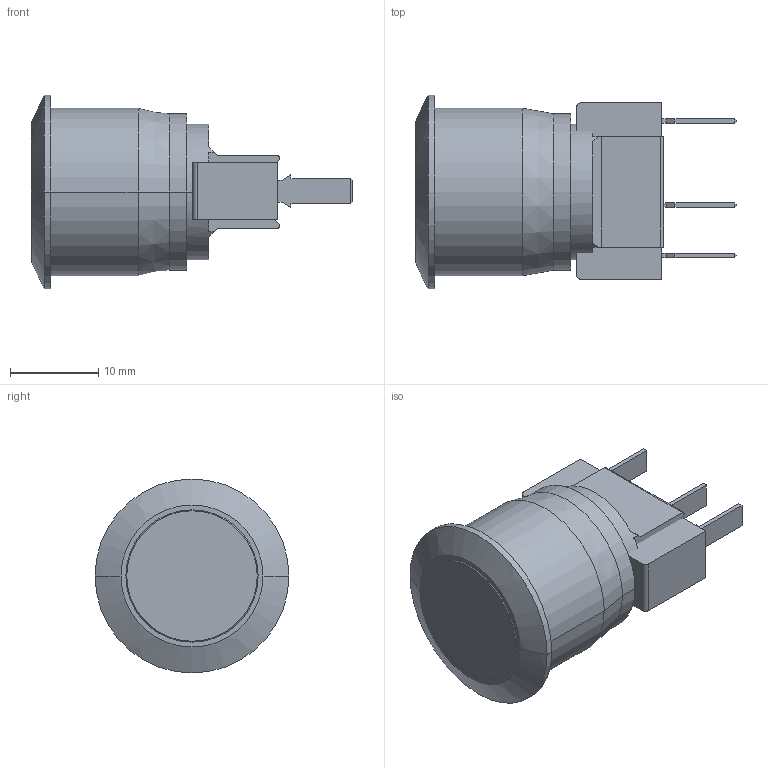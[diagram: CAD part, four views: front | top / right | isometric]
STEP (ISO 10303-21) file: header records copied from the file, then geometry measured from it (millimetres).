
FILE_DESCRIPTION((''),'2;1');
FILE_NAME('AV19LP404','2015-05-26T',('mdamaggio'),(''),'CREO PARAMETRIC BY PTC INC, 2014440','CREO PARAMETRIC BY PTC INC, 2014440','');
FILE_SCHEMA(('CONFIG_CONTROL_DESIGN'));
Length unit declared in the file: millimetre
Products named in the file (1): AV19LP404
Bounding box: 36.46 x 22 x 22 mm (x, y, z)
Surface area: 3533.4 mm2 (no closed solid volume)
Topology: 0 solids, 9 shells, 92 faces, 244 edges, 162 vertices
Faces by surface type: plane 74, cylinder 12, cone 4, bspline 2
Entity records: 2836 total; most frequent: CARTESIAN_POINT 540, DIRECTION 460, ORIENTED_EDGE 440, EDGE_CURVE 244, VECTOR 200, LINE 200, VERTEX_POINT 162, AXIS2_PLACEMENT_3D 130
